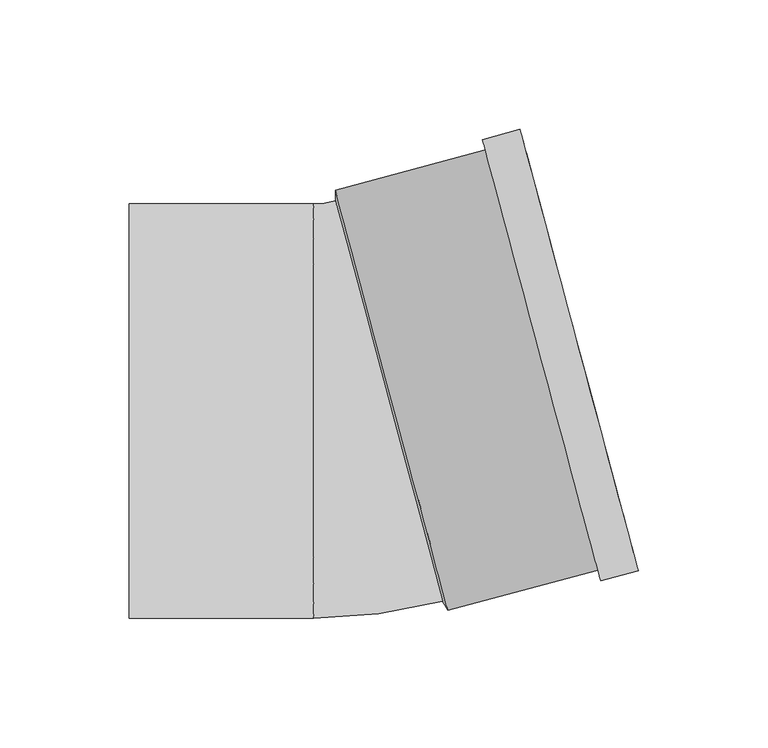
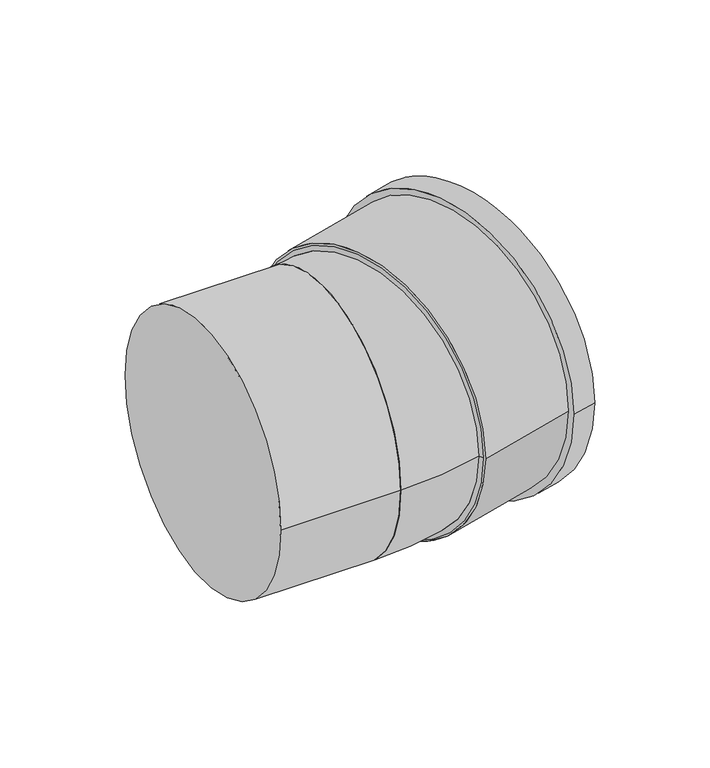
"""IFC4 building model written with IfcOpenShell, lengths in millimetres: pipe fitting geometry, Superdrain HT bend : Superdrain HT Bend."""

from ifc_helpers import new_model, si_unit, point, frame, origin, origin_2d, place, context, project, spatial, polyline, circle_curve, ellipse_curve, trimmed, segment, composite_curve, outline, extrude, source, transform, mapped, element, save
from ifc_brep_helpers import plane_surface, revolved_surface, advanced_brep


def pipe_fitting_105f839c(model_context):
    return source(origin(), model_context, "Body", "SolidModel", [
        advanced_brep(
        [(35.0978184, -73.4176623, 0.0), (-6.3132288, 81.1304699, 0.0), (-14.9, -80.0, 0.0), (-14.9, 80.0, 0.0)],
        [
            (0, 1, circle_curve(frame((14.3922948, 3.8564038, 0.0), z_axis=(0.9659258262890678, 0.25881904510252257, 0.0), x_axis=(-0.25881904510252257, 0.9659258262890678, 0.0)), 80.0)),
            (1, 0, circle_curve(frame((14.3922948, 3.8564038, 0.0), z_axis=(0.9659258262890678, 0.25881904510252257, 0.0), x_axis=(-0.25881904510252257, 0.9659258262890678, 0.0)), 80.0)),
            (2, 3, circle_curve(frame((-14.9, 0.0, 0.0), z_axis=(-1.0, 0.0, 0.0), x_axis=(0.0, 1.0, 0.0)), 80.0)),
            (3, 2, circle_curve(frame((-14.9, 0.0, 0.0), z_axis=(-1.0, 0.0, 0.0), x_axis=(0.0, 1.0, 0.0)), 80.0)),
            (3, 1, circle_curve(frame((-14.9, 113.1767363, 0.0), z_axis=(0.0, 0.0, 1.0), x_axis=(1.0, 0.0, 0.0)), 33.1767363)),
            (0, 2, circle_curve(frame((-14.9, 113.1767363, 0.0), z_axis=(0.0, 0.0, -1.0), x_axis=(1.0, 0.0, 0.0)), 193.1767363)),
        ],
        [
            plane_surface(frame((14.3922948, 3.8564038, 0.0), z_axis=(0.9659258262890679, 0.2588190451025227, 0.0), x_axis=(0.0, 0.0, -1.0))),
            plane_surface(frame((-14.9, 0.0, 0.0), z_axis=(-1.0, 0.0, 0.0), x_axis=(0.0, 0.0, -1.0))),
            revolved_surface(trimmed(ellipse_curve(frame((98.2767363, 113.1767363, 0.0), z_axis=(0.0, -1.0, 0.0), x_axis=(-1.0, 0.0, 0.0)), 80.0, 80.0), [point((18.2767363, 113.1767363, 0.0))], [point((178.2767363, 113.1767363, 0.0))], True, "CARTESIAN"), (-14.9, 113.1767363, 0.0), (0.0, 0.0, 1.0)),
            revolved_surface(trimmed(ellipse_curve(frame((98.2767363, 113.1767363, 0.0), z_axis=(0.0, -1.0, 0.0), x_axis=(-1.0, 0.0, 0.0)), 80.0, 80.0), [point((178.2767363, 113.1767363, 0.0))], [point((18.2767363, 113.1767363, 0.0))], True, "CARTESIAN"), (-14.9, 113.1767363, 0.0), (0.0, 0.0, 1.0)),
        ],
        [
            (0, [[1, 2]]),
            (1, [[3, 4]]),
            (2, [[-4, 5, -1, 6]]),
            (3, [[-3, -6, -2, -5]]),
        ],
    ),
        extrude(outline(composite_curve([segment(trimmed(circle_curve(origin_2d(), 84.0), [point((0.0, 84.0))], [point((0.0, -84.0))], False, "CARTESIAN"), True, "CONTINUOUS"), segment(trimmed(circle_curve(origin_2d(), 84.0), [point((0.0, -84.0))], [point((0.0, 84.0))], False, "CARTESIAN"), True, "CONTINUOUS")], self_intersect=False), holes=[composite_curve([segment(trimmed(circle_curve(origin_2d(), 80.0), [point((0.0, 80.0))], [point((0.0, -80.0))], True, "CARTESIAN"), True, "CONTINUOUS"), segment(trimmed(circle_curve(origin_2d(), 80.0), [point((0.0, -80.0))], [point((0.0, 80.0))], True, "CARTESIAN"), True, "CONTINUOUS")], self_intersect=False)]), frame((15.3582206, 4.1152228, 0.0), z_axis=(0.9659258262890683, 0.2588190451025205, 0.0), x_axis=(0.0, 0.0, 1.0)), (0.0, 0.0, 1.0), 75.0),
        extrude(outline(composite_curve([segment(trimmed(circle_curve(origin_2d(), 88.2), [point((0.0, -88.2))], [point((0.0, 88.2))], False, "CARTESIAN"), True, "CONTINUOUS"), segment(trimmed(circle_curve(origin_2d(), 88.2), [point((0.0, 88.2))], [point((0.0, -88.2))], False, "CARTESIAN"), True, "CONTINUOUS")], self_intersect=False), holes=[composite_curve([segment(trimmed(circle_curve(origin_2d(), 80.0), [point((0.0, -80.0))], [point((0.0, 80.0))], True, "CARTESIAN"), True, "CONTINUOUS"), segment(trimmed(circle_curve(origin_2d(), 80.0), [point((0.0, 80.0))], [point((0.0, -80.0))], True, "CARTESIAN"), True, "CONTINUOUS")], self_intersect=False)]), frame((73.3137702, 19.6443655, 0.0), z_axis=(0.9659258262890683, 0.25881904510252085, 0.0), x_axis=(0.0, 0.0, 1.0)), (0.0, 0.0, 1.0), 15.0),
        advanced_brep(
        [(37.0990204, -77.0225466, 0.0), (-6.3825792, 85.2529922, 0.0), (35.0978184, -73.4176623, 0.0), (-6.3132288, 81.1304699, 0.0)],
        [
            (0, 1, circle_curve(frame((15.3582206, 4.1152228, 0.0), z_axis=(0.9659258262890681, 0.25881904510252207, 0.0), x_axis=(0.25881904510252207, -0.965925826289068, 0.0)), 84.0)),
            (1, 0, circle_curve(frame((15.3582206, 4.1152228, 0.0), z_axis=(0.9659258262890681, 0.25881904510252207, 0.0), x_axis=(-0.258819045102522, 0.9659258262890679, 0.0)), 84.0)),
            (2, 3, circle_curve(frame((14.3922948, 3.8564038, 0.0), z_axis=(-0.9659258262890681, -0.25881904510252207, 0.0), x_axis=(-0.258819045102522, 0.9659258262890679, 0.0)), 80.0)),
            (3, 2, circle_curve(frame((14.3922948, 3.8564038, 0.0), z_axis=(-0.9659258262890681, -0.25881904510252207, 0.0), x_axis=(0.25881904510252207, -0.965925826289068, 0.0)), 80.0)),
            (3, 1),
            (0, 2),
        ],
        [
            plane_surface(frame((15.3582206, 4.1152228, 0.0), z_axis=(0.9659258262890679, 0.25881904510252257, 0.0), x_axis=(0.0, 0.0, -1.0))),
            plane_surface(frame((14.3922948, 3.8564038, 0.0), z_axis=(-0.9659258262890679, -0.25881904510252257, 0.0), x_axis=(0.0, 0.0, -1.0))),
            revolved_surface(polyline([(-6.313228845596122, 81.13047001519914, 0.0), (-6.382579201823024, 85.25299230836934, 0.0)]), (-4.9262217, -1.3199771, 0.0), (0.9659258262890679, 0.258819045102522, 0.0)),
            revolved_surface(polyline([(35.09781842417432, -73.41766239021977, 0.0), (37.0990204, -77.0225466, 0.0)]), (-4.9262217, -1.3199771, 0.0), (0.9659258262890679, 0.258819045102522, 0.0)),
        ],
        [
            (0, [[1, 2]]),
            (1, [[3, 4]]),
            (2, [[-4, 5, -1, 6]]),
            (3, [[-3, -6, -2, -5]]),
        ],
    ),
        extrude(outline(composite_curve([segment(trimmed(circle_curve(origin_2d(), 80.0), [point((-80.0, 0.0))], [point((80.0, 0.0))], False, "CARTESIAN"), True, "CONTINUOUS"), segment(trimmed(circle_curve(origin_2d(), 80.0), [point((80.0, 0.0))], [point((-80.0, 0.0))], False, "CARTESIAN"), True, "CONTINUOUS")], self_intersect=False)), frame((-86.0, 0.0, 0.0), z_axis=(1.0, 0.0, 0.0), x_axis=(0.0, 1.0, 0.0)), (0.0, 0.0, 1.0), 71.1),
    ])


if __name__ == "__main__":
    model = new_model("IFC4")
    model_context = context("Model", 3, world=origin())
    ifc_project = project(units=[si_unit("LENGTHUNIT", "METRE", prefix="MILLI")], contexts=[model_context])
    site = spatial("IfcSite", under=ifc_project)
    building = spatial("IfcBuilding", under=site)
    placement = place(None, origin())
    pipe_fitting_shape = pipe_fitting_105f839c(model_context)
    element("IfcPipeFitting", 1, ObjectType="Superdrain HT bend : Superdrain HT Bend", at=placement, inside=building, context=model_context, shape_type="MappedRepresentation", body=[
        mapped(pipe_fitting_shape, transform((0.0, 0.0, 0.0), x_axis=(1.0, 0.0, 0.0), y_axis=(0.0, 1.0, 0.0), z_axis=(0.0, 0.0, 1.0))),
    ])
    save(model, "model.ifc")
